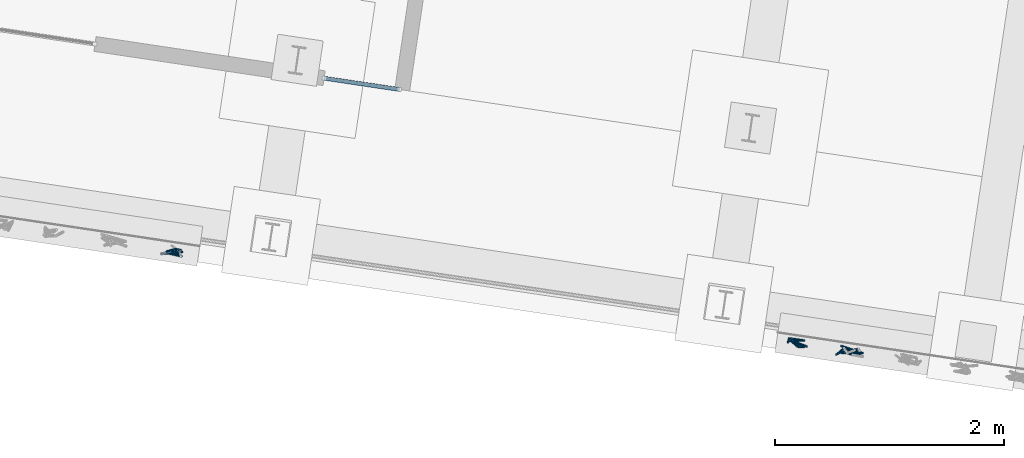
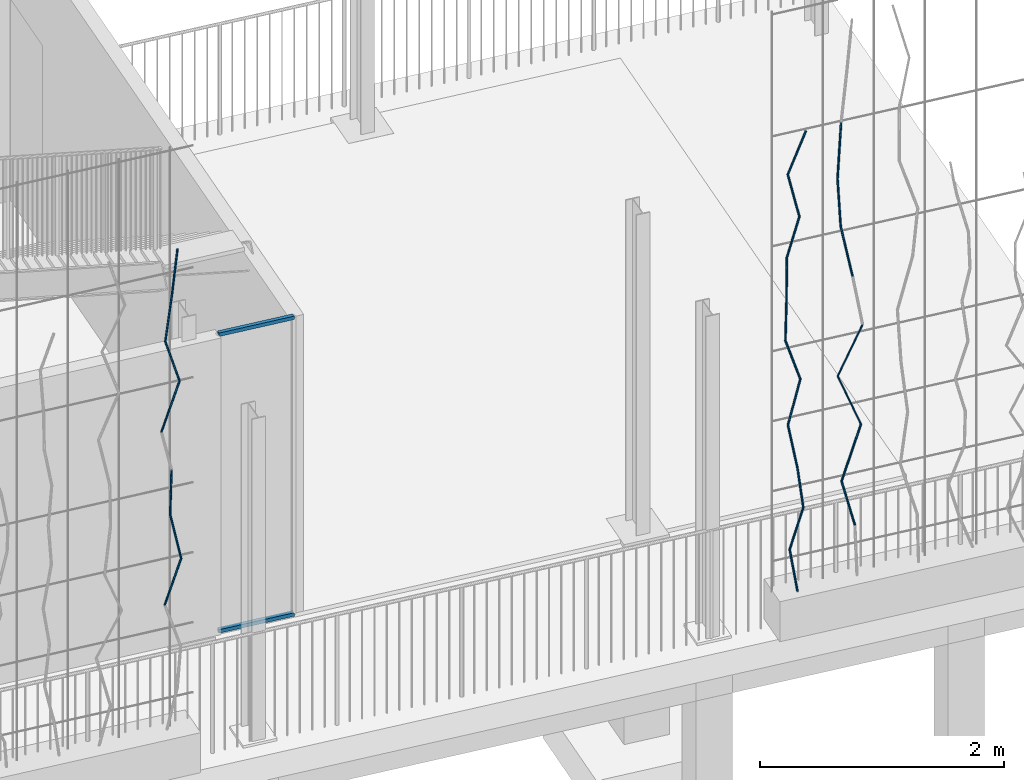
# One storey, part 126 of 143: 27 members, 1 element without a shape of its own.
"""IFC4 building model written with IfcOpenShell, lengths in metres."""

from ifc_helpers import new_model, si_unit, direction, frame, origin_with_axes, place, context, subcontext, project, spatial, rectangle, circle, extrude, material, material_profile, profile_set, profile_usage, type_object, element, aggregate, save


model = new_model("IFC4")

# Units and contexts
model_context = context("Model", 3, precision=1e-05, world=origin_with_axes(), true_north=direction((0.0, 1.0)))
body_context = subcontext(model_context, "Body", "Model", "MODEL_VIEW")
ifc_project = project(units=[si_unit("VOLUMEUNIT", "CUBIC_METRE"), si_unit("LENGTHUNIT", "METRE"), si_unit("AREAUNIT", "SQUARE_METRE")], contexts=[model_context])

# Site, building, storey
site_placement = place(None, origin_with_axes())
site = spatial("IfcSite", under=ifc_project, at=site_placement, Name="Lares · Rua das Mercês · artigo 4771")
building_placement = place(site_placement, frame((15.0, 9.7, 15.8), z_axis=(0.0, 0.0, 1.0), x_axis=(0.989015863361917, -0.147809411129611, 0.0)))
building = spatial("IfcBuilding", under=site, at=building_placement, Name="Casa Sobreposta")
storey_placement = place(building_placement, origin_with_axes())
storey = spatial("IfcBuildingStorey", under=building, at=storey_placement, Name="00 · Habitação e estacionamento", Elevation=15.8)

# Members
ifc_material_1 = material(Name="Aço pintado / Stahl lackiert", Category="steel")
ifc_material_profile_1 = material_profile(ifc_material_1, rectangle(XDim=0.035, YDim=0.035))
ifc_profile_set_1 = profile_set([ifc_material_profile_1], Name="R0.035")
ifc_profile_usage_1 = profile_usage(ifc_profile_set_1)
member_type_1 = type_object("IfcMemberType", Name="R0.035 / steel", PredefinedType="NOTDEFINED", material=ifc_profile_set_1)
member_1_placement = place(storey_placement, frame((24.256, 0.0, 0.0), z_axis=(1.0, 0.0, 0.0), x_axis=(0.0, -1.0, 0.0)))
element("IfcMember", 1, at=member_1_placement, inside=storey, type_object=member_type_1, material=ifc_profile_usage_1, Name="Folha de correr sul 12 · travessa", context=body_context, shape_type="SweptSolid", body=[
    extrude(rectangle(XDim=0.035, YDim=0.035), origin_with_axes(), (0.0, 0.0, 1.0), 0.664000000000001),
])
ifc_profile_usage_2 = profile_usage(ifc_profile_set_1)
member_2_placement = place(storey_placement, frame((24.256, 0.0, 2.968), z_axis=(1.0, 0.0, 0.0), x_axis=(0.0, -1.0, 0.0)))
element("IfcMember", 2, at=member_2_placement, inside=storey, type_object=member_type_1, material=ifc_profile_usage_2, Name="Folha de correr sul 12 · travessa", context=body_context, shape_type="SweptSolid", body=[
    extrude(rectangle(XDim=0.035, YDim=0.035), origin_with_axes(), (0.0, 0.0, 1.0), 0.664000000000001),
])

# Assembly, members
assembly_placement = place(storey_placement, origin_with_axes())
assembly = element("IfcElementAssembly", 3, at=assembly_placement, inside=storey, Name="Fachada sul e pátio · estrutura e trepadeiras", ObjectType="LIVING_SHADE_TRELLIS", PredefinedType="USERDEFINED")
ifc_material_2 = material(Name="Ramos de trepadeiras", Category="wood")
ifc_material_profile_2 = material_profile(ifc_material_2, circle(Radius=0.0075))
ifc_profile_set_2 = profile_set([ifc_material_profile_2], Name="D0.015")
ifc_profile_usage_3 = profile_usage(ifc_profile_set_2)
member_type_2 = type_object("IfcMemberType", Name="D0.015 / vine_wood", PredefinedType="NOTDEFINED", material=ifc_profile_set_2)
member_3_placement = place(assembly_placement, frame((23.1127318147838, -1.70972972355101, 1.66249091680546), z_axis=(0.305577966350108, -0.0228254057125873, 0.951893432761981), x_axis=(-0.0744883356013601, -0.997221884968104, 0.0)))
member_3 = element("IfcMember", 4, at=member_3_placement, type_object=member_type_2, material=ifc_profile_usage_3, Name="Trepadeiras · ramo", context=body_context, shape_type="SweptSolid", body=[
    extrude(circle(Radius=0.0075), origin_with_axes(), (0.0, 0.0, 1.0), 0.459607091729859),
])
ifc_profile_usage_4 = profile_usage(ifc_profile_set_2)
member_4_placement = place(assembly_placement, frame((23.2531776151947, -1.72022044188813, 2.09998788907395), z_axis=(-0.1902599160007, 0.0693399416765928, 0.979281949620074), x_axis=(0.34241690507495, 0.939548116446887, 0.0)))
member_4 = element("IfcMember", 5, at=member_4_placement, type_object=member_type_2, material=ifc_profile_usage_4, Name="Trepadeiras · ramo", context=body_context, shape_type="SweptSolid", body=[
    extrude(circle(Radius=0.0075), origin_with_axes(), (0.0, 0.0, 1.0), 0.446752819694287),
])
ifc_profile_usage_5 = profile_usage(ifc_profile_set_2)
member_5_placement = place(assembly_placement, frame((23.1681784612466, -1.68924262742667, 2.53748486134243), z_axis=(0.0371367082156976, 0.0220993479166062, 0.999065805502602), x_axis=(0.999310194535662, -0.000821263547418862, -0.0371276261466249)))
member_5 = element("IfcMember", 6, at=member_5_placement, type_object=member_type_2, material=ifc_profile_usage_5, Name="Trepadeiras · ramo", context=body_context, shape_type="SweptSolid", body=[
    extrude(circle(Radius=0.0075), origin_with_axes(), (0.0, 0.0, 1.0), 0.437906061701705),
])
ifc_profile_usage_6 = profile_usage(ifc_profile_set_2)
member_6_placement = place(assembly_placement, frame((23.0776264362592, -1.72477457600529, 3.4124788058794), z_axis=(0.372604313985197, 0.0898929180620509, 0.923626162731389), x_axis=(0.234526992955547, -0.972109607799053, 0.0)))
member_6 = element("IfcMember", 7, at=member_6_placement, type_object=member_type_2, material=ifc_profile_usage_6, Name="Trepadeiras · ramo", context=body_context, shape_type="SweptSolid", body=[
    extrude(circle(Radius=0.0075), origin_with_axes(), (0.0, 0.0, 1.0), 0.473673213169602),
])
ifc_profile_usage_7 = profile_usage(ifc_profile_set_2)
member_7_placement = place(assembly_placement, frame((23.2541191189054, -1.68219470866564, 3.84997577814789), z_axis=(-0.289085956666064, -0.0350734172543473, 0.95666042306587), x_axis=(-0.120442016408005, 0.992720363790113, 0.0)))
member_7 = element("IfcMember", 8, at=member_7_placement, type_object=member_type_2, material=ifc_profile_usage_7, Name="Trepadeiras · ramo", context=body_context, shape_type="SweptSolid", body=[
    extrude(circle(Radius=0.0075), origin_with_axes(), (0.0, 0.0, 1.0), 0.457316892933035),
])
ifc_profile_usage_8 = profile_usage(ifc_profile_set_2)
member_8_placement = place(assembly_placement, frame((23.1219152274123, -1.69823437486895, 4.28747275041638), z_axis=(0.162216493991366, 0.0710607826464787, 0.984193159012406), x_axis=(0.401250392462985, -0.915968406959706, 0.0)))
member_8 = element("IfcMember", 9, at=member_8_placement, type_object=member_type_2, material=ifc_profile_usage_8, Name="Trepadeiras · ramo", context=body_context, shape_type="SweptSolid", body=[
    extrude(circle(Radius=0.0075), origin_with_axes(), (0.0, 0.0, 1.0), 0.444523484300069),
])
ifc_profile_usage_9 = profile_usage(ifc_profile_set_2)
member_9_placement = place(assembly_placement, frame((23.1940242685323, -1.66664618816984, 4.72496972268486), z_axis=(0.106000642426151, -0.00536431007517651, 0.994351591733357), x_axis=(-0.050541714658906, -0.998721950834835, 0.0)))
member_9 = element("IfcMember", 10, at=member_9_placement, type_object=member_type_2, material=ifc_profile_usage_9, Name="Trepadeiras · ramo", context=body_context, shape_type="SweptSolid", body=[
    extrude(circle(Radius=0.0075), origin_with_axes(), (0.0, 0.0, 1.0), 0.439982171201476),
])
ifc_profile_usage_10 = profile_usage(ifc_profile_set_2)
member_10_placement = place(assembly_placement, frame((28.693106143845, -1.69425509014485, 0.35), z_axis=(-0.133640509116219, 0.0815831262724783, 0.987666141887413), x_axis=(0.521049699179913, 0.853526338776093, 0.0)))
member_10 = element("IfcMember", 11, at=member_10_placement, type_object=member_type_2, material=ifc_profile_usage_10, Name="Trepadeiras · ramo", context=body_context, shape_type="SweptSolid", body=[
    extrude(circle(Radius=0.0075), origin_with_axes(), (0.0, 0.0, 1.0), 0.422593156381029),
])
ifc_profile_usage_11 = profile_usage(ifc_profile_set_2)
member_11_placement = place(assembly_placement, frame((28.6366305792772, -1.65977861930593, 0.767380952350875), z_axis=(0.242432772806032, -0.0905571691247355, 0.965932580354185), x_axis=(-0.34992011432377, -0.936779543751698, 0.0)))
member_11 = element("IfcMember", 12, at=member_11_placement, type_object=member_type_2, material=ifc_profile_usage_11, Name="Trepadeiras · ramo", context=body_context, shape_type="SweptSolid", body=[
    extrude(circle(Radius=0.0075), origin_with_axes(), (0.0, 0.0, 1.0), 0.432101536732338),
])
ifc_profile_usage_12 = profile_usage(ifc_profile_set_2)
member_12_placement = place(assembly_placement, frame((28.741386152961, -1.69890851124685, 1.18476190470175), z_axis=(-0.12972488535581, -0.0163543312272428, 0.991415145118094), x_axis=(-0.125079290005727, 0.992146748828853, 0.0)))
member_12 = element("IfcMember", 13, at=member_12_placement, type_object=member_type_2, material=ifc_profile_usage_12, Name="Trepadeiras · ramo", context=body_context, shape_type="SweptSolid", body=[
    extrude(circle(Radius=0.0075), origin_with_axes(), (0.0, 0.0, 1.0), 0.42099513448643),
])
ifc_profile_usage_13 = profile_usage(ifc_profile_set_2)
member_13_placement = place(assembly_placement, frame((28.6867726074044, -1.7057936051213, 1.60214285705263), z_axis=(-0.158406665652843, 0.0975968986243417, 0.982538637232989), x_axis=(0.524549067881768, 0.851380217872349, 0.0)))
member_13 = element("IfcMember", 14, at=member_13_placement, type_object=member_type_2, material=ifc_profile_usage_13, Name="Trepadeiras · ramo", context=body_context, shape_type="SweptSolid", body=[
    extrude(circle(Radius=0.0075), origin_with_axes(), (0.0, 0.0, 1.0), 0.424798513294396),
])
ifc_profile_usage_14 = profile_usage(ifc_profile_set_2)
member_14_placement = place(assembly_placement, frame((28.6194816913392, -1.66433458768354, 2.0195238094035), z_axis=(0.269525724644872, 0.0449849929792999, 0.961941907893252), x_axis=(0.164627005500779, -0.98635589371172, 0.0)))
member_14 = element("IfcMember", 15, at=member_14_placement, type_object=member_type_2, material=ifc_profile_usage_14, Name="Trepadeiras · ramo", context=body_context, shape_type="SweptSolid", body=[
    extrude(circle(Radius=0.0075), origin_with_axes(), (0.0, 0.0, 1.0), 0.433894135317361),
])
ifc_profile_usage_15 = profile_usage(ifc_profile_set_2)
member_15_placement = place(assembly_placement, frame((28.7364273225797, -1.64481586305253, 2.43690476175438), z_axis=(-0.300876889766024, -0.000803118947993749, 0.953662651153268), x_axis=(-0.00266925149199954, 0.999996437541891, 0.0)))
member_15 = element("IfcMember", 16, at=member_15_placement, type_object=member_type_2, material=ifc_profile_usage_15, Name="Trepadeiras · ramo", context=body_context, shape_type="SweptSolid", body=[
    extrude(circle(Radius=0.0075), origin_with_axes(), (0.0, 0.0, 1.0), 0.43766100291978),
])
ifc_profile_usage_16 = profile_usage(ifc_profile_set_2)
member_16_placement = place(assembly_placement, frame((28.6047452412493, -1.64516735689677, 2.85428571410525), z_axis=(-0.0106424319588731, -0.0836177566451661, 0.996441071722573), x_axis=(-0.991997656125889, 0.126256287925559, 0.0)))
member_16 = element("IfcMember", 17, at=member_16_placement, type_object=member_type_2, material=ifc_profile_usage_16, Name="Trepadeiras · ramo", context=body_context, shape_type="SweptSolid", body=[
    extrude(circle(Radius=0.0075), origin_with_axes(), (0.0, 0.0, 1.0), 0.418871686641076),
])
ifc_profile_usage_17 = profile_usage(ifc_profile_set_2)
member_17_placement = place(assembly_placement, frame((28.6002874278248, -1.68019246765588, 3.27166666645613), z_axis=(0.0348806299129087, 0.065653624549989, 0.99723264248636), x_axis=(0.883103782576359, -0.469177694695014, 0.0)))
member_17 = element("IfcMember", 18, at=member_17_placement, type_object=member_type_2, material=ifc_profile_usage_17, Name="Trepadeiras · ramo", context=body_context, shape_type="SweptSolid", body=[
    extrude(circle(Radius=0.0075), origin_with_axes(), (0.0, 0.0, 1.0), 0.418539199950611),
])
ifc_profile_usage_18 = profile_usage(ifc_profile_set_2)
member_18_placement = place(assembly_placement, frame((28.6148863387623, -1.65271385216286, 3.689047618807), z_axis=(0.211752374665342, -0.113877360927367, 0.970666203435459), x_axis=(-0.473638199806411, -0.880719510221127, 0.0)))
member_18 = element("IfcMember", 19, at=member_18_placement, type_object=member_type_2, material=ifc_profile_usage_18, Name="Trepadeiras · ramo", context=body_context, shape_type="SweptSolid", body=[
    extrude(circle(Radius=0.0075), origin_with_axes(), (0.0, 0.0, 1.0), 0.429994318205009),
])
ifc_profile_usage_19 = profile_usage(ifc_profile_set_2)
member_19_placement = place(assembly_placement, frame((28.7059386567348, -1.70168047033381, 4.10642857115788), z_axis=(-0.201496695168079, 0.0950246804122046, 0.974868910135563), x_axis=(0.426541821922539, 0.90446784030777, 0.0)))
member_19 = element("IfcMember", 20, at=member_19_placement, type_object=member_type_2, material=ifc_profile_usage_19, Name="Trepadeiras · ramo", context=body_context, shape_type="SweptSolid", body=[
    extrude(circle(Radius=0.0075), origin_with_axes(), (0.0, 0.0, 1.0), 0.42814059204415),
])
ifc_profile_usage_20 = profile_usage(ifc_profile_set_2)
member_20_placement = place(assembly_placement, frame((28.6196697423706, -1.66099654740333, 4.52380952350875), z_axis=(0.329421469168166, -0.0722360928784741, 0.94141565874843), x_axis=(-0.214192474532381, -0.976791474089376, 0.0)))
member_20 = element("IfcMember", 21, at=member_20_placement, type_object=member_type_2, material=ifc_profile_usage_20, Name="Trepadeiras · ramo", context=body_context, shape_type="SweptSolid", body=[
    extrude(circle(Radius=0.0075), origin_with_axes(), (0.0, 0.0, 1.0), 0.443354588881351),
])
ifc_profile_usage_21 = profile_usage(ifc_profile_set_2)
member_21_placement = place(assembly_placement, frame((29.215554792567, -1.64706171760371, 0.857738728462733), z_axis=(-0.262190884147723, -0.105251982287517, 0.95925906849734), x_axis=(-0.372536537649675, 0.928017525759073, 1.17797142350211e-17)))
member_21 = element("IfcMember", 22, at=member_21_placement, type_object=member_type_2, material=ifc_profile_usage_21, Name="Trepadeiras · ramo", context=body_context, shape_type="SweptSolid", body=[
    extrude(circle(Radius=0.0075), origin_with_axes(), (0.0, 0.0, 1.0), 0.529303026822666),
])
ifc_profile_usage_22 = profile_usage(ifc_profile_set_2)
member_22_placement = place(assembly_placement, frame((29.0767763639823, -1.70277191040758, 1.36547745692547), z_axis=(0.334661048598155, 0.0459395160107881, 0.941218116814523), x_axis=(0.135996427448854, -0.990709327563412, 0.0)))
member_22 = element("IfcMember", 23, at=member_22_placement, type_object=member_type_2, material=ifc_profile_usage_22, Name="Trepadeiras · ramo", context=body_context, shape_type="SweptSolid", body=[
    extrude(circle(Radius=0.0075), origin_with_axes(), (0.0, 0.0, 1.0), 0.53944852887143),
])
ifc_profile_usage_23 = profile_usage(ifc_profile_set_2)
member_23_placement = place(assembly_placement, frame((29.2573087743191, -1.67798990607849, 1.8732161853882), z_axis=(-0.351809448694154, 0.062891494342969, 0.933956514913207), x_axis=(0.175976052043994, 0.984394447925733, 0.0)))
member_23 = element("IfcMember", 24, at=member_23_placement, type_object=member_type_2, material=ifc_profile_usage_23, Name="Trepadeiras · ramo", context=body_context, shape_type="SweptSolid", body=[
    extrude(circle(Radius=0.0075), origin_with_axes(), (0.0, 0.0, 1.0), 0.543642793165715),
])
ifc_profile_usage_24 = profile_usage(ifc_profile_set_2)
member_24_placement = place(assembly_placement, frame((29.0660501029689, -1.64379939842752, 2.38095491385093), z_axis=(0.354514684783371, -0.116418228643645, 0.927774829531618), x_axis=(-0.311995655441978, -0.950083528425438, 1.72528319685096e-17)))
member_24 = element("IfcMember", 25, at=member_24_placement, type_object=member_type_2, material=ifc_profile_usage_24, Name="Trepadeiras · ramo", context=body_context, shape_type="SweptSolid", body=[
    extrude(circle(Radius=0.0075), origin_with_axes(), (0.0, 0.0, 1.0), 0.547265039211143),
])
ifc_profile_usage_25 = profile_usage(ifc_profile_set_2)
member_25_placement = place(assembly_placement, frame((29.1725859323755, -1.70433431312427, 3.3964323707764), z_axis=(-0.188513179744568, 0.031408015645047, 0.981568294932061), x_axis=(0.164343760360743, 0.986403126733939, 0.0)))
member_25 = element("IfcMember", 26, at=member_25_placement, type_object=member_type_2, material=ifc_profile_usage_25, Name="Trepadeiras · ramo", context=body_context, shape_type="SweptSolid", body=[
    extrude(circle(Radius=0.0075), origin_with_axes(), (0.0, 0.0, 1.0), 0.517272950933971),
])
ifc_profile_usage_26 = profile_usage(ifc_profile_set_2)
member_26_placement = place(assembly_placement, frame((29.075073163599, -1.68808779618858, 3.90417109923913), z_axis=(-0.0813127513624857, -0.0668964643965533, 0.99444109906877), x_axis=(-0.635328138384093, 0.772242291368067, 0.0)))
member_26 = element("IfcMember", 27, at=member_26_placement, type_object=member_type_2, material=ifc_profile_usage_26, Name="Trepadeiras · ramo", context=body_context, shape_type="SweptSolid", body=[
    extrude(circle(Radius=0.0075), origin_with_axes(), (0.0, 0.0, 1.0), 0.510576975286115),
])
ifc_profile_usage_27 = profile_usage(ifc_profile_set_2)
member_27_placement = place(assembly_placement, frame((29.0335567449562, -1.7222435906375, 4.41190982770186), z_axis=(0.109992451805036, 0.125509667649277, 0.985976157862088), x_axis=(0.752067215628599, -0.659086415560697, 0.0)))
member_27 = element("IfcMember", 28, at=member_27_placement, type_object=member_type_2, material=ifc_profile_usage_27, Name="Trepadeiras · ramo", context=body_context, shape_type="SweptSolid", body=[
    extrude(circle(Radius=0.0075), origin_with_axes(), (0.0, 0.0, 1.0), 0.514960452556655),
])
aggregate(assembly, [member_3, member_4, member_5, member_6, member_7, member_8, member_9, member_10, member_11, member_12, member_13, member_14, member_15, member_16, member_17, member_18, member_19, member_20, member_21, member_22, member_23, member_24, member_25, member_26, member_27])

save(model, "model.ifc")
